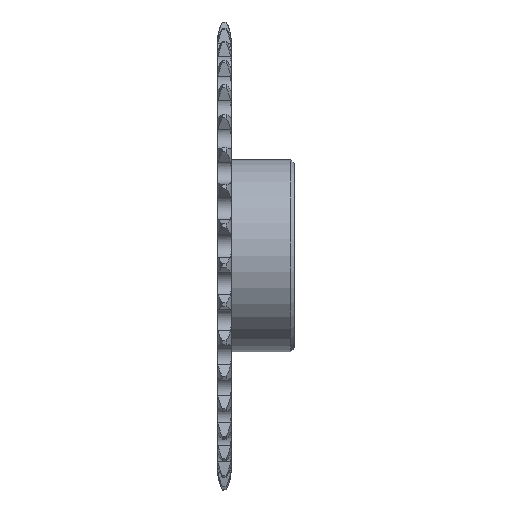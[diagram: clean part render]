
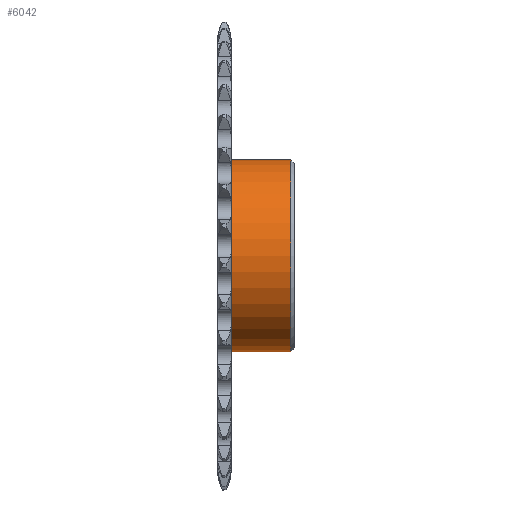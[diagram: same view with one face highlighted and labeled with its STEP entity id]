
A CAD part, top view. The second image highlights one B-rep face of the part: STEP entity #6042.
In plain terms, the highlighted cylindrical face has radius 20 mm (diameter 40 mm), a full revolution.
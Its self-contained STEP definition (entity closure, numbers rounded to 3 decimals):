
#584=CYLINDRICAL_SURFACE('',#6695,20.);
#915=LINE('',#11599,#1249);
#1249=VECTOR('',#8289,20.);
#1570=FACE_OUTER_BOUND('',#1897,.T.);
#1897=EDGE_LOOP('',(#5651,#5652,#5653,#5654));
#2211=CIRCLE('',#6656,20.);
#2212=CIRCLE('',#6696,20.);
#2838=VERTEX_POINT('',#11556);
#2839=VERTEX_POINT('',#11597);
#3776=EDGE_CURVE('',#2838,#2838,#2211,.T.);
#3777=EDGE_CURVE('',#2839,#2839,#2212,.T.);
#3778=EDGE_CURVE('',#2839,#2838,#915,.T.);
#5651=ORIENTED_EDGE('',*,*,#3777,.F.);
#5652=ORIENTED_EDGE('',*,*,#3778,.T.);
#5653=ORIENTED_EDGE('',*,*,#3776,.T.);
#5654=ORIENTED_EDGE('',*,*,#3778,.F.);
#6042=ADVANCED_FACE('',(#1570),#584,.T.);
#6656=AXIS2_PLACEMENT_3D('',#11557,#8207,#8208);
#6695=AXIS2_PLACEMENT_3D('',#11596,#8285,#8286);
#6696=AXIS2_PLACEMENT_3D('',#11598,#8287,#8288);
#8207=DIRECTION('center_axis',(1.,0.,0.));
#8208=DIRECTION('ref_axis',(0.,0.,-1.));
#8285=DIRECTION('center_axis',(1.,0.,0.));
#8286=DIRECTION('ref_axis',(0.,1.,0.));
#8287=DIRECTION('center_axis',(1.,0.,0.));
#8288=DIRECTION('ref_axis',(0.,0.,-1.));
#8289=DIRECTION('',(-1.,0.,0.));
#11556=CARTESIAN_POINT('',(2.8,-20.,0.));
#11557=CARTESIAN_POINT('Origin',(2.8,0.,0.));
#11596=CARTESIAN_POINT('Origin',(9.,0.,0.));
#11597=CARTESIAN_POINT('',(15.2,-20.,0.));
#11598=CARTESIAN_POINT('Origin',(15.2,0.,
0.));
#11599=CARTESIAN_POINT('',(9.,-20.,0.));
